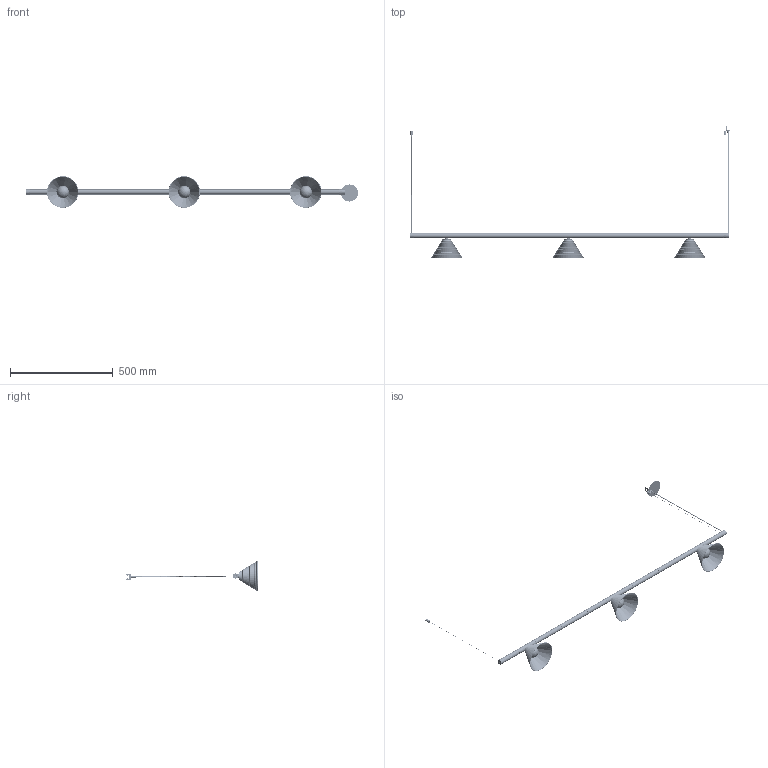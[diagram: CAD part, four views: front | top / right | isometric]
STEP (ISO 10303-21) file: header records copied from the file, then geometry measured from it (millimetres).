
FILE_DESCRIPTION (( 'STEP AP214' ), '1' );
FILE_NAME ('OVAL CONE 15 rec.STEP', '2024-03-15T13:12:16', ( '' ), ( '' ), 'SwSTEP 2.0', 'SolidWorks 2024', '' );
FILE_SCHEMA (( 'AUTOMOTIVE_DESIGN' ));
Length unit declared in the file: millimetre
Products named in the file (39): OVAL CONE 15 rec; Tapa Floron Emp. MICRO_Tapa empotarable; Cable_VISUAL Alimentación Micro; Bola_Ø60xT3; Ensamble Tensor Micro_Con Cable; Taco cuerpo Micro; Jack_Scpre; Conector Molex Hembra 43020; Cable acero_0.5m; CJ02-BALO 60_Surface Ø60; Perfil Micro V4_1.5m; 04-23DM01-Adaptador_Caja_DM01.3; 04-23DM02-Adaptador_Tapa(V1.2)_24V; Ensamblaje FLORON EMP. MICRO; Ensamble Tapa + Tope_Con Conector; CJ03-ENS-CAMPANA CONE(V1.1); Tapa Alimentación Perfil_SCPRE; Ensamble Conector Jack Unión_Alimentación Colgante SCPRE; Tuerca M8_Predeterminada; 04-23DM03-Tope_Adaptador_1.3; BOLA CRISTAL OPAL MATE Ø60 CON ROSCA_60; Driver Entity EN1689; Tija Tiny_Inyección ; Prisionero STEAB M4x4_8; Regulador Cable Ø0.6 (Bereta LT1007.0601); CUI_DEVICES_PJ-005B_Ø2.5; eje cable colgante_M8 MICRO; CJ01-ENS_Adaptador 24V_Proyector; Taco Micro_Ø10 M10*5; Floron U Muelle MICRO; Rosca Bola_chapa galbanizada(inglass); Tapon Tapa_2; Difusor Negro Oval_0.47m; Tapa Micro V5_V5.1; Tapa Unión-Final V5_V5.1 Colgante Union ; DISIPADOR ALUMINIO BALO Bola Ø60_para bola Ø60; Difusor Negro Oval_0.1m; 04-23DM05-CAMPANA CONE(V1.1)_1; Tuerca Hembra Conector Jack
Assembly tree (46 placements, depth 5):
  OVAL CONE 15 rec
    Perfil Micro V4_1.5m
    CJ03-ENS-CAMPANA CONE(V1.1)  x3
      04-23DM05-CAMPANA CONE(V1.1)_1
      CJ02-BALO 60_Surface Ø60
        DISIPADOR ALUMINIO BALO Bola Ø60_para bola Ø60
        BOLA CRISTAL OPAL MATE Ø60 CON ROSCA_60
          Bola_Ø60xT3
          Rosca Bola_chapa galbanizada(inglass)
      CJ01-ENS_Adaptador 24V_Proyector
        04-23DM01-Adaptador_Caja_DM01.3
        04-23DM02-Adaptador_Tapa(V1.2)_24V
        Conector Molex Hembra 43020
        Driver Entity EN1689
        04-23DM03-Tope_Adaptador_1.3  x2
        Tija Tiny_Inyección 
    Difusor Negro Oval_0.1m  x2
    Difusor Negro Oval_0.47m  x2
    Ensamble Tapa + Tope_Con Conector  x2
      Tapa Micro V5_V5.1
      CUI_DEVICES_PJ-005B_Ø2.5
      Tuerca Hembra Conector Jack
    Ensamble Tensor Micro_Con Cable  x2
      Taco Micro_Ø10 M10*5
      Taco cuerpo Micro
      Regulador Cable Ø0.6 (Bereta LT1007.0601)
      Cable acero_0.5m
    Tapa Unión-Final V5_V5.1 Colgante Union   x2
    Ensamble Conector Jack Unión_Alimentación Colgante SCPRE
      Cable_VISUAL Alimentación Micro
      Jack_Scpre
      Tapa Alimentación Perfil_SCPRE
      Prisionero STEAB M4x4_8
    Ensamblaje FLORON EMP. MICRO
      Tapa Floron Emp. MICRO_Tapa empotarable
      Floron U Muelle MICRO
      eje cable colgante_M8 MICRO
      Tuerca M8_Predeterminada
    Tapon Tapa_2
Bounding box: 1611.94 x 642.07 x 153.01 mm (x, y, z)
Volume: 626601.5 mm3; surface area: 701804 mm2
Topology: 64 solids, 66 shells, 6023 faces, 14864 edges, 9091 vertices
Faces by surface type: cylinder 1836, plane 1827, cone 1412, bspline 525, torus 319, sphere 104
Entity records: 114769 total; most frequent: CARTESIAN_POINT 59320, ORIENTED_EDGE 11796, DIRECTION 10985, EDGE_CURVE 5898, AXIS2_PLACEMENT_3D 4032, VERTEX_POINT 3676, VECTOR 2921, LINE 2921
